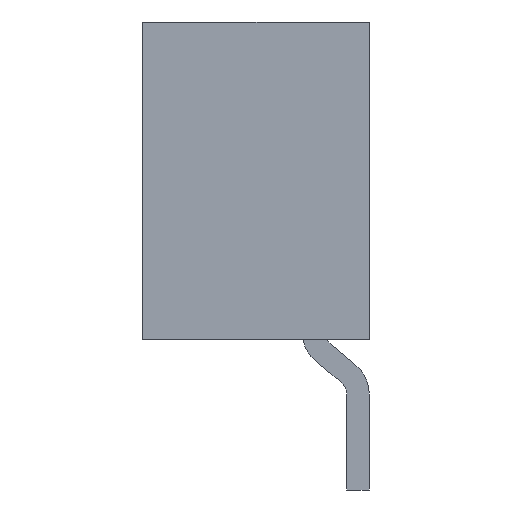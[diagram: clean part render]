
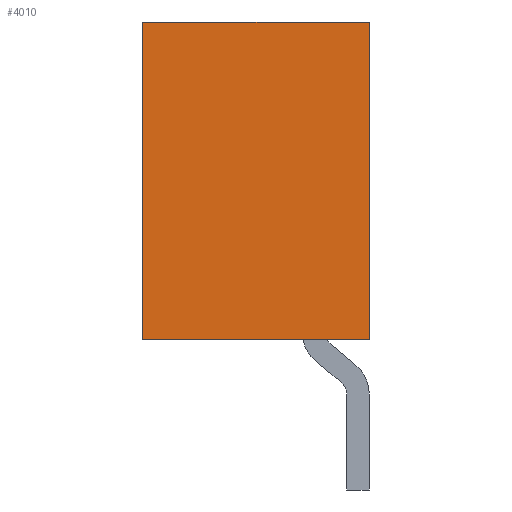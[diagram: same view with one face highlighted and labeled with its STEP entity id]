
A CAD part, left-side view. The second image highlights one B-rep face of the part: STEP entity #4010.
In plain terms, the highlighted planar face has unit normal (-1, 0, 0).
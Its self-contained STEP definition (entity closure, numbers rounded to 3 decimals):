
#31 = CARTESIAN_POINT ( 'NONE',  ( -1.241, 0.583, 1.05 ) ) ;
#70 = PLANE ( 'NONE',  #6194 ) ;
#334 = ORIENTED_EDGE ( 'NONE', *, *, #2916, .T. ) ;
#710 = DIRECTION ( 'NONE',  ( 0., -1., 0. ) ) ;
#888 = LINE ( 'NONE', #3646, #8220 ) ;
#993 = ORIENTED_EDGE ( 'NONE', *, *, #5169, .T. ) ;
#1544 = LINE ( 'NONE', #7796, #7806 ) ;
#1589 = DIRECTION ( 'NONE',  ( 0., 0., -1. ) ) ;
#1628 = VERTEX_POINT ( 'NONE', #3064 ) ;
#1666 = CARTESIAN_POINT ( 'NONE',  ( -1.241, -0.917, 1.05 ) ) ;
#1708 = CARTESIAN_POINT ( 'NONE',  ( -1.241, -0.917, -1.05 ) ) ;
#2058 = DIRECTION ( 'NONE',  ( 0., 1., 0. ) ) ;
#2155 = DIRECTION ( 'NONE',  ( 0., -1., 0. ) ) ;
#2162 = ORIENTED_EDGE ( 'NONE', *, *, #8572, .F. ) ;
#2436 = EDGE_CURVE ( 'NONE', #1628, #4838, #6318, .T. ) ;
#2577 = VERTEX_POINT ( 'NONE', #5863 ) ;
#2916 = EDGE_CURVE ( 'NONE', #1628, #2577, #7890, .T. ) ;
#3064 = CARTESIAN_POINT ( 'NONE',  ( -1.241, 0.583, 1.05 ) ) ;
#3121 = EDGE_LOOP ( 'NONE', ( #993, #2162, #8041, #334 ) ) ;
#3646 = CARTESIAN_POINT ( 'NONE',  ( -1.241, 0.583, -1.05 ) ) ;
#3893 = CARTESIAN_POINT ( 'NONE',  ( -1.241, 0.583, 1.05 ) ) ;
#4010 = ADVANCED_FACE ( 'NONE', ( #6266 ), #70, .F. ) ;
#4838 = VERTEX_POINT ( 'NONE', #1666 ) ;
#5025 = VECTOR ( 'NONE', #7977, 1000. ) ;
#5169 = EDGE_CURVE ( 'NONE', #2577, #6110, #888, .T. ) ;
#5587 = CARTESIAN_POINT ( 'NONE',  ( -1.241, 0.583, 1.05 ) ) ;
#5863 = CARTESIAN_POINT ( 'NONE',  ( -1.241, 0.583, -1.05 ) ) ;
#6110 = VERTEX_POINT ( 'NONE', #1708 ) ;
#6194 = AXIS2_PLACEMENT_3D ( 'NONE', #5587, #7718, #2058 ) ;
#6266 = FACE_OUTER_BOUND ( 'NONE', #3121, .T. ) ;
#6318 = LINE ( 'NONE', #31, #6437 ) ;
#6437 = VECTOR ( 'NONE', #710, 1000. ) ;
#7718 = DIRECTION ( 'NONE',  ( 1., 0., 0. ) ) ;
#7796 = CARTESIAN_POINT ( 'NONE',  ( -1.241, -0.917, 1.05 ) ) ;
#7806 = VECTOR ( 'NONE', #1589, 1000. ) ;
#7890 = LINE ( 'NONE', #3893, #5025 ) ;
#7977 = DIRECTION ( 'NONE',  ( 0., 0., -1. ) ) ;
#8041 = ORIENTED_EDGE ( 'NONE', *, *, #2436, .F. ) ;
#8220 = VECTOR ( 'NONE', #2155, 1000. ) ;
#8572 = EDGE_CURVE ( 'NONE', #4838, #6110, #1544, .T. ) ;
